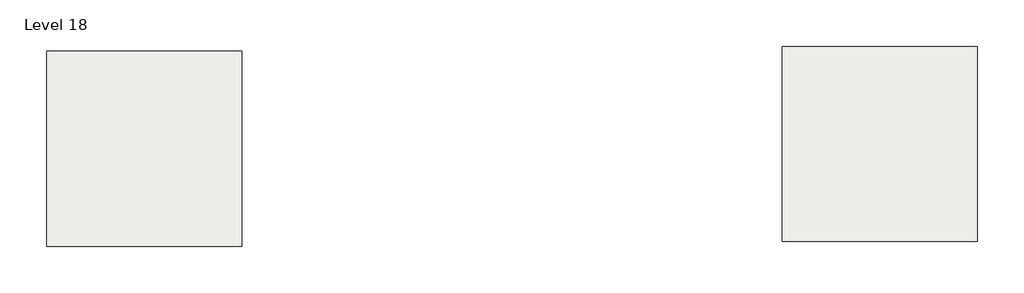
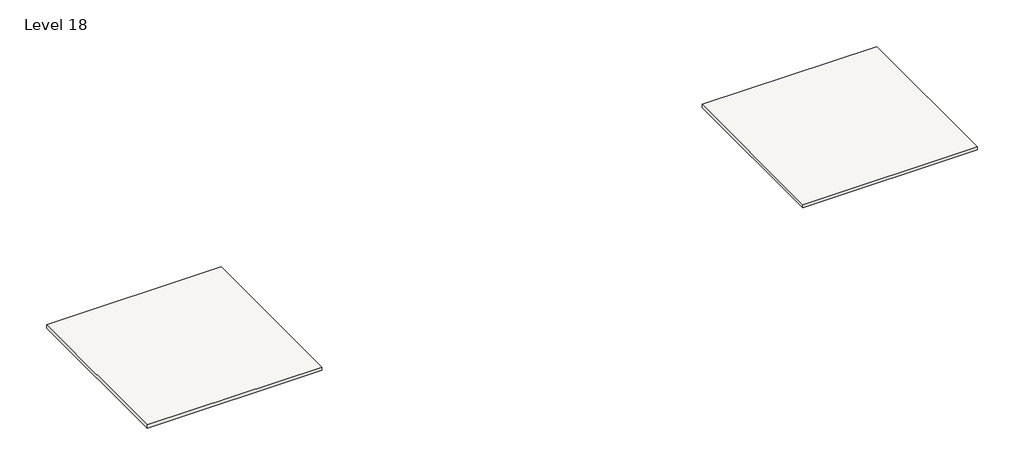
# One storey: 2 slabs.
"""IFC4 building model written with IfcOpenShell, lengths in millimetres."""

from ifc_helpers import new_model, si_unit, frame, origin, place, context, project, spatial, polyline, outline, extrude, element, save

model = new_model("IFC4")

# Units and contexts
model_context = context("Model", 3, world=origin())
ifc_project = project(units=[si_unit("LENGTHUNIT", "METRE", prefix="MILLI")], contexts=[model_context])

# Site, building, storey
site = spatial("IfcSite", under=ifc_project)
building = spatial("IfcBuilding", under=site)
storey = spatial("IfcBuildingStorey", under=building, Name="Level 18", Elevation=51816.0)

# Slabs
placement = place(None, origin())
element("IfcSlab", 1, ObjectType="Generic - 12\"", at=placement, inside=storey, context=model_context, shape_type="SweptSolid", body=[
    extrude(outline(polyline([(-5599.4161695, 9497.9495511), (-5599.4161695, -5742.0504489), (-20839.4161695, -5742.0504489), (-20839.4161695, 9497.9495511), (-5599.4161695, 9497.9495511)])), frame((0.0, 0.0, 51511.2), z_axis=(0.0, 0.0, 1.0), x_axis=(1.0, 0.0, 0.0)), (0.0, 0.0, 1.0), 304.8),
])
element("IfcSlab", 2, ObjectType="Generic - 12\"", at=placement, inside=storey, context=model_context, shape_type="SweptSolid", body=[
    extrude(outline(polyline([(51834.2903978, 9875.0904402), (51834.2903978, -5364.9095598), (36594.2903978, -5364.9095598), (36594.2903978, 9875.0904402), (51834.2903978, 9875.0904402)])), frame((0.0, 0.0, 51511.2), z_axis=(0.0, 0.0, 1.0), x_axis=(1.0, 0.0, 0.0)), (0.0, 0.0, 1.0), 304.8),
])

save(model, "model.ifc")
